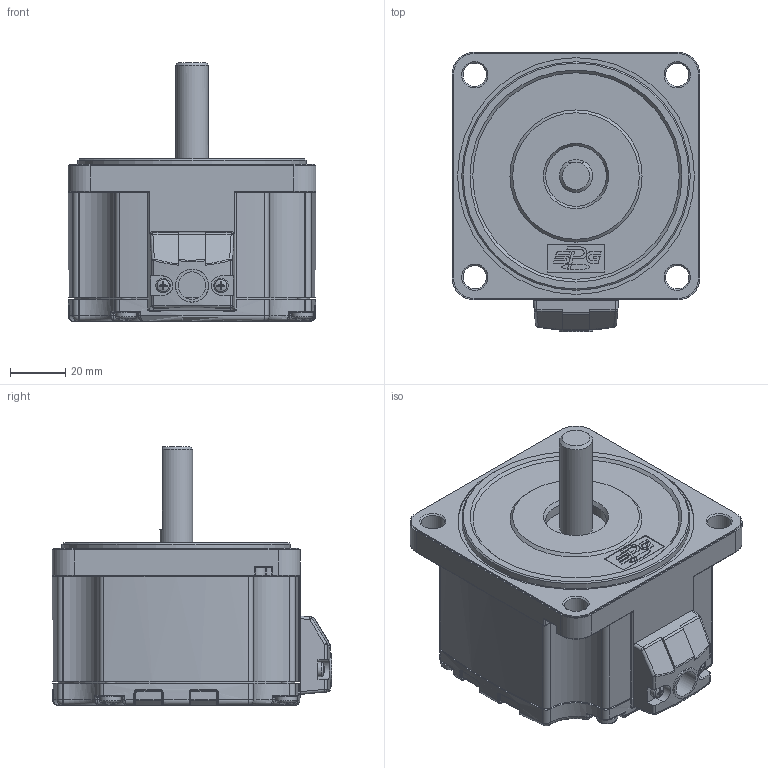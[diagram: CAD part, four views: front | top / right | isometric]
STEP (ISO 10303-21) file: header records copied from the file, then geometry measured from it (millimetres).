
FILE_DESCRIPTION((''),'2;1');
FILE_NAME('C:\Documents and Settings\Administrator\바탕 화면\BLDC 3D FILE\GEAR HEAD ASS''Y\60\MOTOR\90\90-D TYPE.stp','2014-06-19T12:53:02',('kdhkdh'),(''),'Autodesk Inventor 2011','Autodesk Inventor 2011','');
FILE_SCHEMA(('AUTOMOTIVE_DESIGN { 1 0 10303 214 1 1 1 1 }'));
Length unit declared in the file: millimetre
Products named in the file (1): 부품6
Bounding box: 90 x 101.5 x 94 mm (x, y, z)
Volume: 410150.5 mm3; surface area: 53896.9 mm2
Topology: 1 solids, 8 shells, 869 faces, 2172 edges, 1268 vertices
Faces by surface type: cylinder 265, plane 223, torus 134, bspline 134, cone 87, sphere 26
Full cylindrical faces by diameter (mm): 2.729 x2, 3 x2, 3.5 x2, 3.621 x4, 4 x8, 4.5 x4, 5.3 x2, 7.64 x4, 8.5 x4, 10 x1, 12 x2, 22 x1, 70 x1, 83 x2, 86 x2
Entity records: 29466 total; most frequent: CARTESIAN_POINT 10101, DIRECTION 3985, ORIENTED_EDGE 3972, EDGE_CURVE 1986, AXIS2_PLACEMENT_3D 1671, VERTEX_POINT 1227, EDGE_LOOP 991, CIRCLE 897
